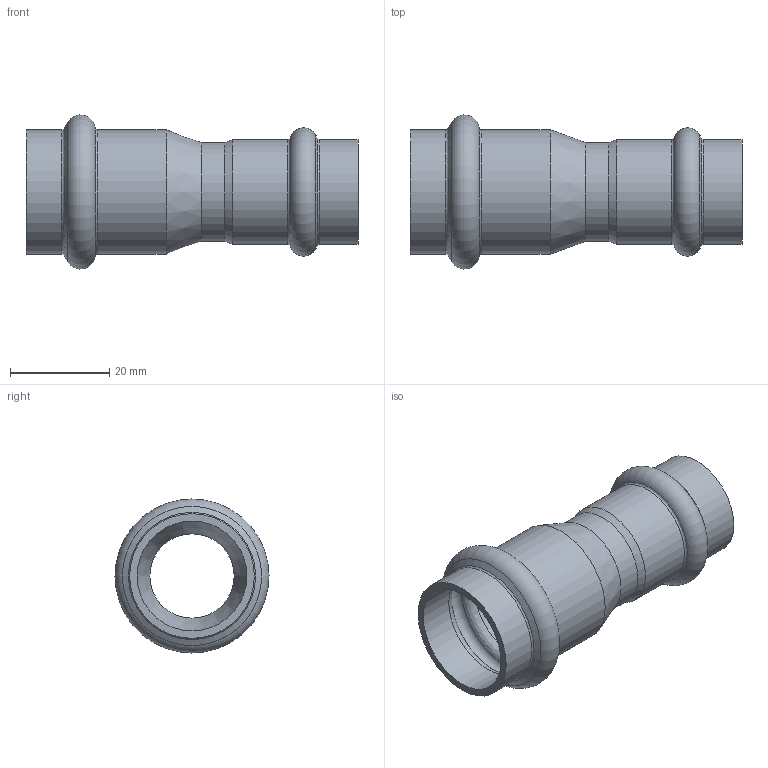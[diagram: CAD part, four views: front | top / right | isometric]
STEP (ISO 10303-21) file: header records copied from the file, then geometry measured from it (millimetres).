
FILE_DESCRIPTION((''),'2;1');
FILE_NAME('G:\Technics\CAD\Bauteile\022\692402218(2).stp','2008-02-21T14:37:24',('herberg'),(''),'Autodesk Inventor 2008','Autodesk Inventor 2008','');
FILE_SCHEMA(('AUTOMOTIVE_DESIGN { 1 0 10303 214 1 1 1 1 }'));
Length unit declared in the file: millimetre
Products named in the file (1): 692402218(2)
Bounding box: 67 x 31.09 x 31.09 mm (x, y, z)
Volume: 7571.3 mm3; surface area: 10298.3 mm2
Topology: 1 solids, 1 shells, 32 faces, 66 edges, 36 vertices
Faces by surface type: cylinder 10, cone 8, bspline 8, torus 4, plane 2
Full cylindrical faces by diameter (mm): 17 x1, 18.15 x2, 20 x1, 21.15 x2, 22.15 x2, 25.15 x2
Entity records: 994 total; most frequent: CARTESIAN_POINT 449, DIRECTION 114, ORIENTED_EDGE 64, EDGE_LOOP 64, AXIS2_PLACEMENT_3D 57, VERTEX_POINT 32, CIRCLE 32, EDGE_CURVE 32
